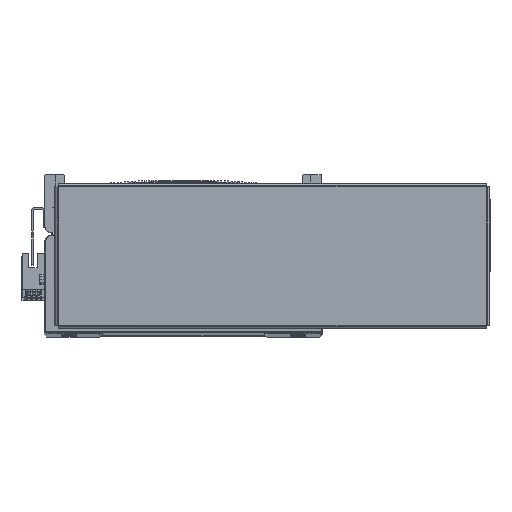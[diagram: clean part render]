
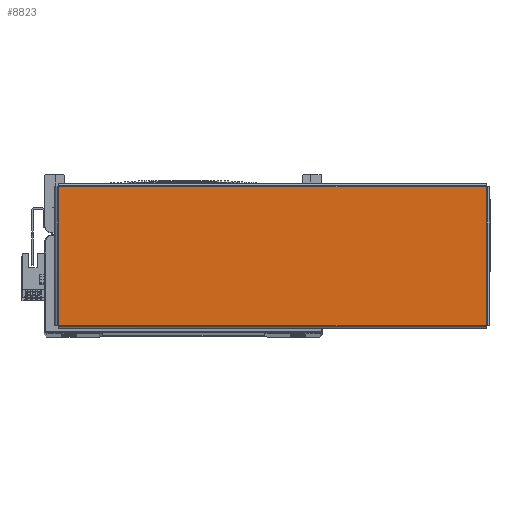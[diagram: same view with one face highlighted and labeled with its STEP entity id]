
A CAD part, top view. The second image highlights one B-rep face of the part: STEP entity #8823.
In plain terms, the highlighted planar face has unit normal (0, 0, 1) as drawn and (0, -1, 0) by its records, which use the part's own axes.
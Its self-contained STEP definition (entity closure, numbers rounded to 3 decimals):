
#4422 = EDGE_CURVE ( 'NONE', #9720, #9738, #69337, .T. ) ;
#4423 = EDGE_CURVE ( 'NONE', #9698, #9677, #69363, .T. ) ;
#4436 = EDGE_CURVE ( 'NONE', #9738, #9698, #69481, .T. ) ;
#4451 = EDGE_CURVE ( 'NONE', #9677, #9720, #69425, .T. ) ;
#6656 = CARTESIAN_POINT ( 'NONE',  ( 130.863, -1.5, -42.263 ) ) ;
#6663 = CARTESIAN_POINT ( 'NONE',  ( -130.863, -1.5, 42.263 ) ) ;
#6672 = CARTESIAN_POINT ( 'NONE',  ( 130.863, -1.5, 42.263 ) ) ;
#6689 = CARTESIAN_POINT ( 'NONE',  ( -130.863, -1.5, -42.263 ) ) ;
#8823 = ADVANCED_FACE ( 'NONE', ( #68962 ), #65348, .F. ) ;
#9383 = ORIENTED_EDGE ( 'NONE', *, *, #4422, .T. ) ;
#9389 = ORIENTED_EDGE ( 'NONE', *, *, #4451, .T. ) ;
#9451 = ORIENTED_EDGE ( 'NONE', *, *, #4423, .T. ) ;
#9472 = ORIENTED_EDGE ( 'NONE', *, *, #4436, .T. ) ;
#9677 = VERTEX_POINT ( 'NONE', #6663 ) ;
#9698 = VERTEX_POINT ( 'NONE', #6672 ) ;
#9720 = VERTEX_POINT ( 'NONE', #6689 ) ;
#9738 = VERTEX_POINT ( 'NONE', #6656 ) ;
#44845 = CARTESIAN_POINT ( 'NONE',  ( -130.893, -1.5, -42.263 ) ) ;
#44846 = DIRECTION ( 'NONE',  ( 1., 0., 0. ) ) ;
#44859 = CARTESIAN_POINT ( 'NONE',  ( 130.893, -1.5, 42.263 ) ) ;
#44868 = DIRECTION ( 'NONE',  ( -1., 0., 0. ) ) ;
#44964 = DIRECTION ( 'NONE',  ( 0., 0., 1. ) ) ;
#45001 = CARTESIAN_POINT ( 'NONE',  ( 130.863, -1.5, -42.293 ) ) ;
#45035 = CARTESIAN_POINT ( 'NONE',  ( -130.863, -1.5, 42.293 ) ) ;
#45113 = DIRECTION ( 'NONE',  ( 0., 0., -1. ) ) ;
#56925 = AXIS2_PLACEMENT_3D ( 'NONE', #65350, #65297, #65363 ) ;
#60335 = EDGE_LOOP ( 'NONE', ( #9472, #9451, #9389, #9383 ) ) ;
#65297 = DIRECTION ( 'NONE',  ( 0., 1., 0. ) ) ;
#65348 = PLANE ( 'NONE',  #56925 ) ;
#65350 = CARTESIAN_POINT ( 'NONE',  ( 0., -1.5, 0. ) ) ;
#65363 = DIRECTION ( 'NONE',  ( 0., 0., 1. ) ) ;
#68962 = FACE_OUTER_BOUND ( 'NONE', #60335, .T. ) ;
#69307 = VECTOR ( 'NONE', #44868, 1000. ) ;
#69337 = LINE ( 'NONE', #44845, #69365 ) ;
#69363 = LINE ( 'NONE', #44859, #69307 ) ;
#69365 = VECTOR ( 'NONE', #44846, 1000. ) ;
#69425 = LINE ( 'NONE', #45035, #69495 ) ;
#69445 = VECTOR ( 'NONE', #44964, 1000. ) ;
#69481 = LINE ( 'NONE', #45001, #69445 ) ;
#69495 = VECTOR ( 'NONE', #45113, 1000. ) ;
